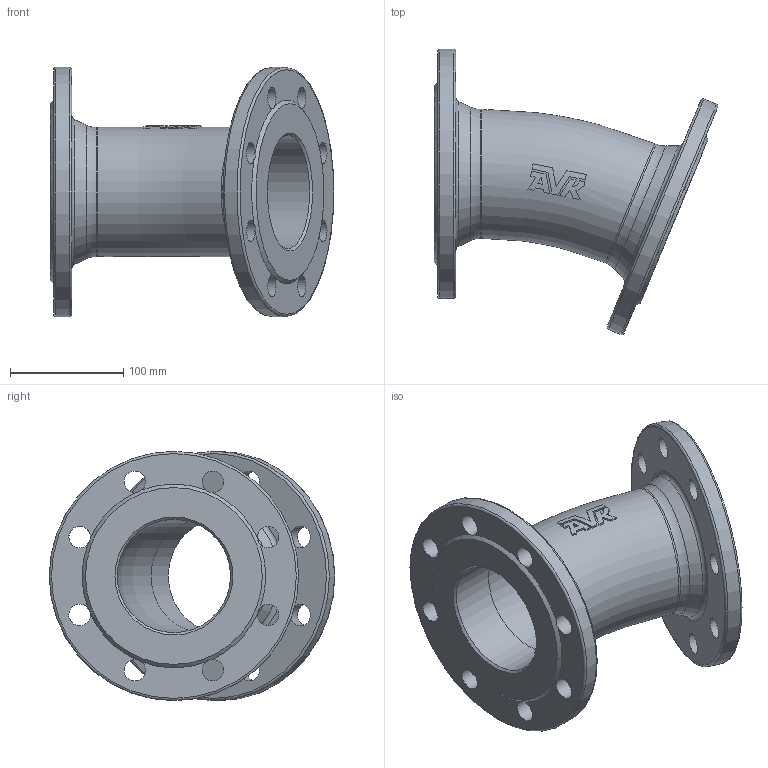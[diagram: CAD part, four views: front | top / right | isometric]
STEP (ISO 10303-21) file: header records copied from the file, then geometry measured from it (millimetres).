
FILE_DESCRIPTION (( 'STEP AP203' ), '1' );
FILE_NAME ('O_712_0210_DN100_1X_REV01.step', '2024-08-15T12:02:00', ( '' ), ( '' ), 'SwSTEP 2.0', 'SolidWorks 2022', '' );
FILE_SCHEMA (( 'CONFIG_CONTROL_DESIGN' ));
Length unit declared in the file: millimetre
Products named in the file (1): O_712_0210_DN100_1X_REV01
Bounding box: 250.33 x 251.96 x 220 mm (x, y, z)
Volume: 1440046.4 mm3; surface area: 271480.2 mm2
Topology: 1 solids, 1 shells, 85 faces, 264 edges, 173 vertices
Faces by surface type: plane 41, cylinder 24, torus 14, cone 6
Full cylindrical faces by diameter (mm): 19 x16, 100 x2, 114 x2, 220 x2
Entity records: 2972 total; most frequent: CARTESIAN_POINT 917, ORIENTED_EDGE 402, DIRECTION 357, EDGE_CURVE 201, AXIS2_PLACEMENT_3D 160, EDGE_LOOP 149, VERTEX_POINT 148, FACE_OUTER_BOUND 117
